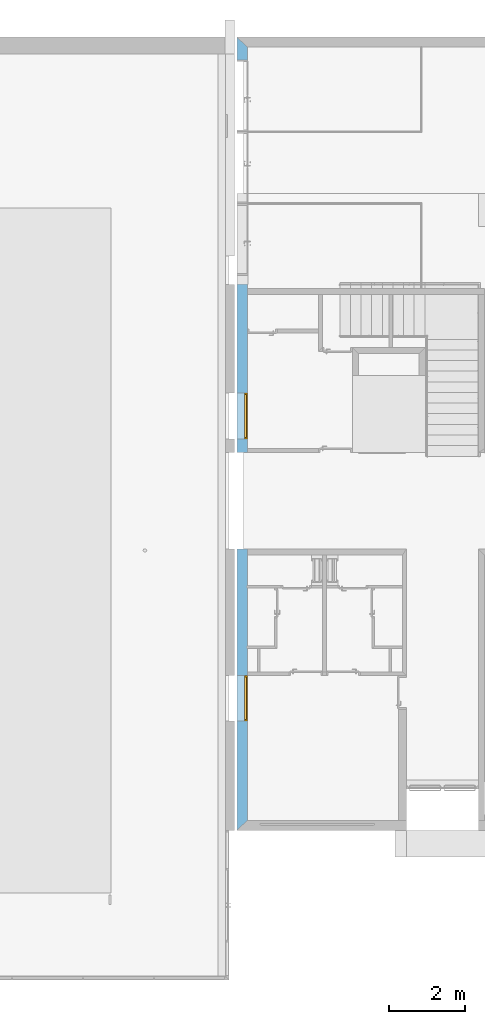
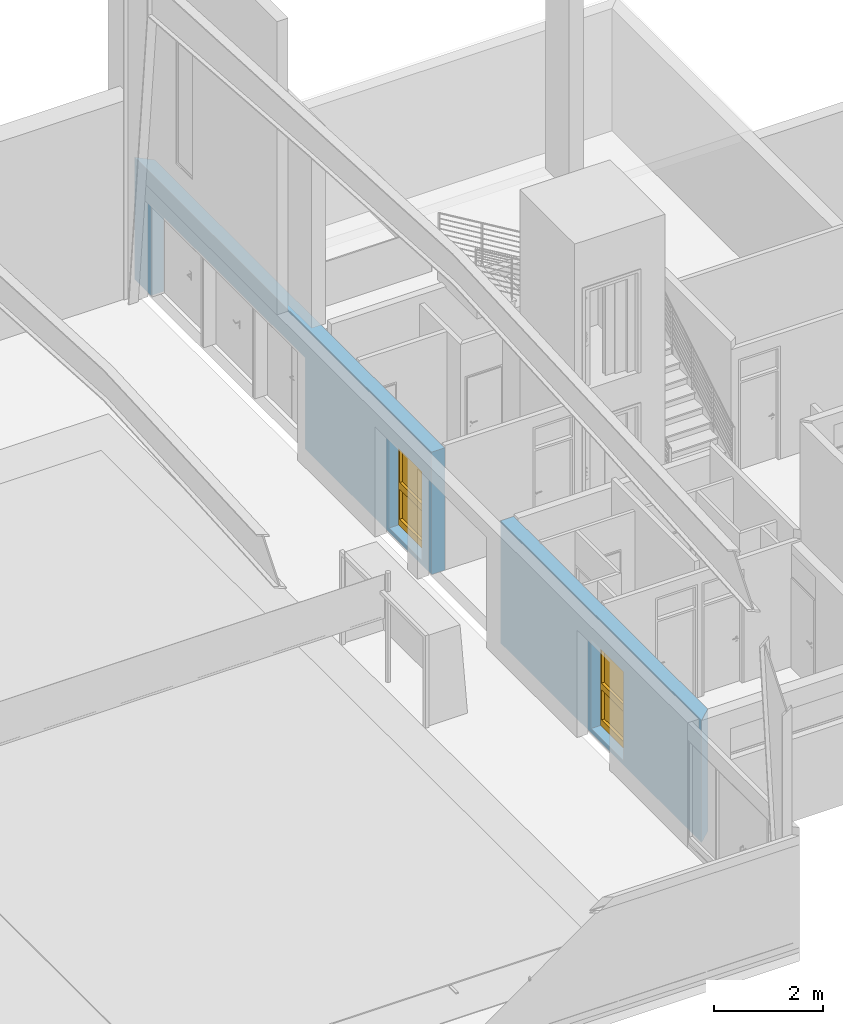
# One storey, part 34 of 45: 2 windows, 6 openings, plus 1 element that does not belong to this part.
"""IFC2X3 building model written with IfcOpenShell, lengths in metres."""

from ifc_helpers import new_model, entity, si_unit, converted_unit, money_unit, direction, frame, origin_with_axes, place, context, subcontext, project, spatial, polyline, outline, extrude, faceted_brep, material, layer, layer_set, layer_usage, type_object, element, fill, save


model = new_model("IFC2X3")

# Units and contexts
model_context = context("Model", 3, precision=1e-05, world=origin_with_axes(), true_north=direction((0.0, 1.0)))
body_context = subcontext(model_context, "Body", "Model", "MODEL_VIEW")
ifc_project = project(units=[si_unit("LENGTHUNIT", "METRE"), si_unit("AREAUNIT", "SQUARE_METRE"), si_unit("VOLUMEUNIT", "CUBIC_METRE"), converted_unit("PLANEANGLEUNIT", "DEGREE", entity("IfcPlaneAngleMeasure", 0.0174532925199), si_unit("PLANEANGLEUNIT", "RADIAN"), dimensions=[0, 0, 0, 0, 0, 0, 0]), si_unit("SOLIDANGLEUNIT", "STERADIAN"), money_unit("EUR"), converted_unit("TIMEUNIT", "Year", entity("IfcTimeMeasure", 31556926.0), si_unit("TIMEUNIT", "SECOND"), dimensions=[0, 0, 0, 0, 0, 0, 0]), si_unit("MASSUNIT", "GRAM"), si_unit("THERMODYNAMICTEMPERATUREUNIT", "DEGREE_CELSIUS"), si_unit("LUMINOUSINTENSITYUNIT", "LUMEN")], contexts=[model_context])

# Site, building, storey
site_placement = place(None, origin_with_axes())
site = spatial("IfcSite", under=ifc_project, at=site_placement, Name="Site", CompositionType="ELEMENT")
building_placement = place(site_placement, origin_with_axes())
building = spatial("IfcBuilding", under=site, at=building_placement, Name="Bâtiment", CompositionType="ELEMENT")
storey_placement = place(building_placement, origin_with_axes())
storey = spatial("IfcBuildingStorey", under=building, at=storey_placement, Name="NIVEAU BAS GYMNASE", CompositionType="ELEMENT", Elevation=0.0)

# Wall, openings, windows
ifc_material_1 = material(Name="Hachure solide* 3992800808")
ifc_layer_1 = layer(ifc_material_1, 0.02, ventilated="UNKNOWN")
ifc_material_2 = material(Name="Empty Fill 290923149")
ifc_layer_2 = layer(ifc_material_2, 0.08, ventilated="UNKNOWN")
ifc_material_3 = material(Name="Hachure solide* 2593434267")
ifc_layer_3 = layer(ifc_material_3, 0.18, ventilated="UNKNOWN")
ifc_layer_set = layer_set([ifc_layer_1, ifc_layer_2, ifc_layer_3], Name="•GYMN 18+10")
ifc_layer_usage = layer_usage(ifc_layer_set, "AXIS2", "POSITIVE", -0.28)
wall_type = type_object("IfcWallType", Name="•GYMN 18+10 280", PredefinedType="NOTDEFINED")
wall_placement = place(storey_placement, frame((45.478457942, 5.86881571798, 0.0), z_axis=(0.0, 0.0, 1.0), x_axis=(0.0, 1.0, 0.0)))
wall = element("IfcWallStandardCase", 1, at=wall_placement, inside=storey, type_object=wall_type, material=ifc_layer_usage, Name="Mur-021", context=body_context, shape_type="SweptSolid", body=[
    extrude(outline(polyline([(0.26, -0.28), (20.6103001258, -0.28), (20.8703001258, 0.0), (0.0, 0.0), (0.26, -0.28)])), origin_with_axes(), (0.0, 0.0, 1.0), 2.75),
])
opening_1_placement = place(wall_placement, frame((3.47, 0.0, 0.1), z_axis=(0.0, 0.0, 1.0), x_axis=(1.0, 0.0, 0.0)))
opening_1 = element("IfcOpeningElement", 2, at=opening_1_placement, cuts=wall, Name="Fen-005", context=body_context, shape_type="SweptSolid", body=[
    extrude(outline(polyline([(0.6, -2.0), (0.6, 0.0), (-0.6, 0.0), (-0.6, -2.0), (0.6, -2.0)])), frame((0.0, -0.28, 0.0), z_axis=(0.0, -1.0, 0.0), x_axis=(-1.0, 0.0, 0.0)), (0.0, 0.0, 1.0), 0.28),
    extrude(outline(polyline([(0.6, 0.0), (0.6, 2.0), (-0.6, 2.0), (-0.6, 0.0), (0.6, 0.0)])), frame((0.0, -0.28, 0.0), z_axis=(0.0, 1.0, 0.0), x_axis=(-1.0, 0.0, 0.0)), (0.0, 0.0, 1.0), 0.28),
])
opening_2_placement = place(wall_placement, frame((10.9011451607, 0.0, 0.1), z_axis=(0.0, 0.0, 1.0), x_axis=(1.0, 0.0, 0.0)))
opening_2 = element("IfcOpeningElement", 3, at=opening_2_placement, cuts=wall, Name="Fen-006", context=body_context, shape_type="SweptSolid", body=[
    extrude(outline(polyline([(0.6, -2.0), (0.6, 0.0), (-0.6, 0.0), (-0.6, -2.0), (0.6, -2.0)])), frame((0.0, -0.28, 0.0), z_axis=(0.0, -1.0, 0.0), x_axis=(-1.0, 0.0, 0.0)), (0.0, 0.0, 1.0), 0.28),
    extrude(outline(polyline([(0.6, 0.0), (0.6, 2.0), (-0.6, 2.0), (-0.6, 0.0), (0.6, 0.0)])), frame((0.0, -0.28, 0.0), z_axis=(0.0, 1.0, 0.0), x_axis=(-1.0, 0.0, 0.0)), (0.0, 0.0, 1.0), 0.28),
])
opening_3_placement = place(wall_placement, frame((8.67, 0.0, 0.0), z_axis=(0.0, 0.0, 1.0), x_axis=(1.0, 0.0, 0.0)))
element("IfcOpeningElement", 4, at=opening_3_placement, cuts=wall, Name="Por-001", context=body_context, shape_type="SweptSolid", body=[
    extrude(outline(polyline([(-1.27, 2.771708), (-1.27, 0.0), (1.27, 0.0), (1.27, 2.771708), (-1.27, 2.771708)])), frame((0.0, -0.28, 0.0), z_axis=(0.0, -1.0, 0.0), x_axis=(1.0, 0.0, 0.0)), (0.0, 0.0, 1.0), 0.28),
    extrude(outline(polyline([(-1.27, 0.0), (-1.27, -2.771708), (1.27, -2.771708), (1.27, 0.0), (-1.27, 0.0)])), frame((0.0, -0.28, 0.0), z_axis=(0.0, 1.0, 0.0), x_axis=(1.0, 0.0, 0.0)), (0.0, 0.0, 1.0), 0.28),
])
opening_4_placement = place(wall_placement, frame((17.4351500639, 0.0, 0.0), z_axis=(0.0, 0.0, 1.0), x_axis=(1.0, 0.0, 0.0)))
element("IfcOpeningElement", 5, at=opening_4_placement, cuts=wall, Name="Por-017", context=body_context, shape_type="SweptSolid", body=[
    extrude(outline(polyline([(0.945, 0.0), (-0.945, 0.0), (-0.945, -2.045), (0.945, -2.045), (0.945, 0.0)])), frame((0.0, 0.28, 0.0), z_axis=(0.0, -1.0, 0.0), x_axis=(-1.0, 0.0, 0.0)), (0.0, 0.0, 1.0), 0.56),
])
opening_5_placement = place(wall_placement, frame((19.3251500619, 0.0, 0.0), z_axis=(0.0, 0.0, 1.0), x_axis=(1.0, 0.0, 0.0)))
element("IfcOpeningElement", 6, at=opening_5_placement, cuts=wall, Name="Por-017", context=body_context, shape_type="SweptSolid", body=[
    extrude(outline(polyline([(-0.945, 0.0), (-0.945, -2.045), (0.945, -2.045), (0.945, 0.0), (-0.945, 0.0)])), frame((0.0, 0.28, 0.0), z_axis=(0.0, -1.0, 0.0), x_axis=(-1.0, 0.0, 0.0)), (0.0, 0.0, 1.0), 0.56),
])
opening_6_placement = place(wall_placement, frame((15.5451500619, 0.0, 0.0), z_axis=(0.0, 0.0, 1.0), x_axis=(1.0, 0.0, 0.0)))
element("IfcOpeningElement", 7, at=opening_6_placement, cuts=wall, Name="Por-018", context=body_context, shape_type="SweptSolid", body=[
    extrude(outline(polyline([(-0.945, 0.0), (-0.945, -2.045), (0.945, -2.045), (0.945, 0.0), (-0.945, 0.0)])), frame((0.0, 0.28, 0.0), z_axis=(0.0, -1.0, 0.0), x_axis=(-1.0, 0.0, 0.0)), (0.0, 0.0, 1.0), 0.56),
])
ifc_material_4 = material(Name="Sans Trame")
window_style = type_object("IfcWindowStyle", Name="F Devanture 1 10", ConstructionType="NOTDEFINED", OperationType="USERDEFINED", ParameterTakesPrecedence=False, Sizeable=False)
window_1_placement = place(opening_1_placement, frame((0.6, 0.0, 0.0), z_axis=(0.0, 0.0, 1.0), x_axis=(-1.0, 0.0, 0.0)))
window_1 = element("IfcWindow", 8, at=window_1_placement, inside=storey, type_object=window_style, material=ifc_material_4, Name="Fen-005", OverallHeight=2.0, OverallWidth=1.2, context=body_context, shape_type="Brep", body=[
    faceted_brep([(0.04, 0.2, 0.825), (1.16, 0.2, 0.825), (1.16, 0.2, 0.975), (0.04, 0.2, 0.975), (0.04, 0.28, 0.825), (1.16, 0.28, 0.825), (1.16, 0.28, 0.975), (0.04, 0.28, 0.975)], [[[0, 1, 2, 3]], [[4, 5, 1, 0]], [[1, 5, 6, 2]], [[3, 2, 6, 7]], [[7, 4, 0, 3]], [[7, 6, 5, 4]]]),
    faceted_brep([(1.2, 0.28, 1.96), (1.2, 0.2, 1.96), (1.2, 0.2, 0.15), (1.2, 0.28, 0.15), (1.16, 0.28, 1.96), (1.16, 0.2, 1.96), (1.16, 0.2, 0.15), (1.16, 0.28, 0.15)], [[[0, 1, 2, 3]], [[4, 5, 1, 0]], [[1, 5, 6, 2]], [[3, 2, 6, 7]], [[0, 3, 7, 4]], [[7, 6, 5, 4]]]),
    faceted_brep([(0.0, 0.28, 0.15), (0.0, 0.2, 0.15), (0.0, 0.2, 1.96), (0.0, 0.28, 1.96), (0.04, 0.28, 0.15), (0.04, 0.2, 0.15), (0.04, 0.2, 1.96), (0.04, 0.28, 1.96)], [[[0, 1, 2, 3]], [[4, 5, 1, 0]], [[1, 5, 6, 2]], [[3, 2, 6, 7]], [[0, 3, 7, 4]], [[7, 6, 5, 4]]]),
    faceted_brep([(0.0, 0.28, 2.0), (0.0, 0.2, 2.0), (1.2, 0.2, 2.0), (1.2, 0.28, 2.0), (0.0, 0.28, 1.96), (0.0, 0.2, 1.96), (0.04, 0.2, 1.96), (1.16, 0.2, 1.96), (1.2, 0.2, 1.96), (1.2, 0.28, 1.96), (1.16, 0.28, 1.96), (0.04, 0.28, 1.96)], [[[0, 1, 2, 3]], [[4, 5, 1, 0]], [[1, 5, 6, 7, 8, 2]], [[3, 2, 8, 9]], [[0, 3, 9, 10, 11, 4]], [[11, 6, 5, 4]], [[10, 7, 6, 11]], [[9, 8, 7, 10]]]),
    faceted_brep([(0.0, 0.28, 0.15), (0.0, 0.2, 0.15), (0.04, 0.2, 0.15), (0.04, 0.28, 0.15), (0.0, 0.28, 0.0), (0.0, 0.2, 0.0), (1.2, 0.2, 0.0), (1.2, 0.2, 0.15), (1.16, 0.2, 0.15), (1.16, 0.28, 0.15), (1.2, 0.28, 0.15), (1.2, 0.28, 0.0)], [[[0, 1, 2, 3]], [[4, 5, 1, 0]], [[1, 5, 6, 7, 8, 2]], [[3, 2, 8, 9]], [[0, 3, 9, 10, 11, 4]], [[11, 6, 5, 4]], [[10, 7, 6, 11]], [[9, 8, 7, 10]]]),
    faceted_brep([(1.16, 0.27, 0.15), (1.16, 0.26, 0.15), (0.04, 0.26, 0.15), (0.04, 0.27, 0.15), (1.16, 0.27, 0.825), (1.16, 0.26, 0.825), (0.04, 0.26, 0.825), (0.04, 0.27, 0.825)], [[[0, 1, 2, 3]], [[4, 5, 1, 0]], [[1, 5, 6, 2]], [[3, 2, 6, 7]], [[0, 3, 7, 4]], [[7, 6, 5, 4]]]),
    faceted_brep([(1.16, 0.27, 0.975), (1.16, 0.26, 0.975), (0.04, 0.26, 0.975), (0.04, 0.27, 0.975), (1.16, 0.27, 1.96), (1.16, 0.26, 1.96), (0.04, 0.26, 1.96), (0.04, 0.27, 1.96)], [[[0, 1, 2, 3]], [[4, 5, 1, 0]], [[1, 5, 6, 2]], [[3, 2, 6, 7]], [[0, 3, 7, 4]], [[7, 6, 5, 4]]]),
])
fill(opening_1, window_1)
window_2_placement = place(opening_2_placement, frame((0.6, 0.0, 0.0), z_axis=(0.0, 0.0, 1.0), x_axis=(-1.0, 0.0, 0.0)))
window_2 = element("IfcWindow", 9, at=window_2_placement, inside=storey, type_object=window_style, material=ifc_material_4, Name="Fen-006", OverallHeight=2.0, OverallWidth=1.2, context=body_context, shape_type="Brep", body=[
    faceted_brep([(1.16, 0.2, 0.825), (1.16, 0.2, 0.975), (0.04, 0.2, 0.975), (0.04, 0.2, 0.825), (1.16, 0.28, 0.975), (1.16, 0.28, 0.825), (0.04, 0.28, 0.975), (0.04, 0.28, 0.825)], [[[0, 1, 2, 3]], [[4, 1, 0, 5]], [[1, 4, 6, 2]], [[3, 2, 6, 7]], [[5, 0, 3, 7]], [[4, 5, 7, 6]]]),
    faceted_brep([(0.0, 0.28, 1.96), (0.0, 0.28, 0.15), (0.0, 0.2, 0.15), (0.0, 0.2, 1.96), (0.04, 0.28, 1.96), (0.04, 0.28, 0.15), (0.04, 0.2, 0.15), (0.04, 0.2, 1.96)], [[[0, 1, 2, 3]], [[0, 4, 5, 1]], [[1, 5, 6, 2]], [[3, 2, 6, 7]], [[4, 0, 3, 7]], [[5, 4, 7, 6]]]),
    faceted_brep([(1.2, 0.28, 0.15), (1.2, 0.28, 1.96), (1.2, 0.2, 1.96), (1.2, 0.2, 0.15), (1.16, 0.28, 0.15), (1.16, 0.28, 1.96), (1.16, 0.2, 1.96), (1.16, 0.2, 0.15)], [[[0, 1, 2, 3]], [[0, 4, 5, 1]], [[1, 5, 6, 2]], [[3, 2, 6, 7]], [[4, 0, 3, 7]], [[5, 4, 7, 6]]]),
    faceted_brep([(1.2, 0.28, 2.0), (0.0, 0.28, 2.0), (0.0, 0.2, 2.0), (1.2, 0.2, 2.0), (1.2, 0.28, 1.96), (1.16, 0.28, 1.96), (0.04, 0.28, 1.96), (0.0, 0.28, 1.96), (0.0, 0.2, 1.96), (0.04, 0.2, 1.96), (1.16, 0.2, 1.96), (1.2, 0.2, 1.96)], [[[0, 1, 2, 3]], [[0, 4, 5, 6, 7, 1]], [[1, 7, 8, 2]], [[3, 2, 8, 9, 10, 11]], [[4, 0, 3, 11]], [[5, 4, 11, 10]], [[6, 5, 10, 9]], [[7, 6, 9, 8]]]),
    faceted_brep([(1.2, 0.28, 0.15), (1.16, 0.28, 0.15), (1.16, 0.2, 0.15), (1.2, 0.2, 0.15), (1.2, 0.28, 0.0), (0.0, 0.28, 0.0), (0.0, 0.28, 0.15), (0.04, 0.28, 0.15), (0.04, 0.2, 0.15), (0.0, 0.2, 0.15), (0.0, 0.2, 0.0), (1.2, 0.2, 0.0)], [[[0, 1, 2, 3]], [[0, 4, 5, 6, 7, 1]], [[1, 7, 8, 2]], [[3, 2, 8, 9, 10, 11]], [[4, 0, 3, 11]], [[5, 4, 11, 10]], [[6, 5, 10, 9]], [[7, 6, 9, 8]]]),
    faceted_brep([(0.04, 0.27, 0.15), (1.16, 0.27, 0.15), (1.16, 0.26, 0.15), (0.04, 0.26, 0.15), (0.04, 0.27, 0.825), (1.16, 0.27, 0.825), (1.16, 0.26, 0.825), (0.04, 0.26, 0.825)], [[[0, 1, 2, 3]], [[0, 4, 5, 1]], [[1, 5, 6, 2]], [[3, 2, 6, 7]], [[4, 0, 3, 7]], [[5, 4, 7, 6]]]),
    faceted_brep([(0.04, 0.27, 0.975), (1.16, 0.27, 0.975), (1.16, 0.26, 0.975), (0.04, 0.26, 0.975), (0.04, 0.27, 1.96), (1.16, 0.27, 1.96), (1.16, 0.26, 1.96), (0.04, 0.26, 1.96)], [[[0, 1, 2, 3]], [[0, 4, 5, 1]], [[1, 5, 6, 2]], [[3, 2, 6, 7]], [[4, 0, 3, 7]], [[5, 4, 7, 6]]]),
])
fill(opening_2, window_2)

save(model, "model.ifc")
